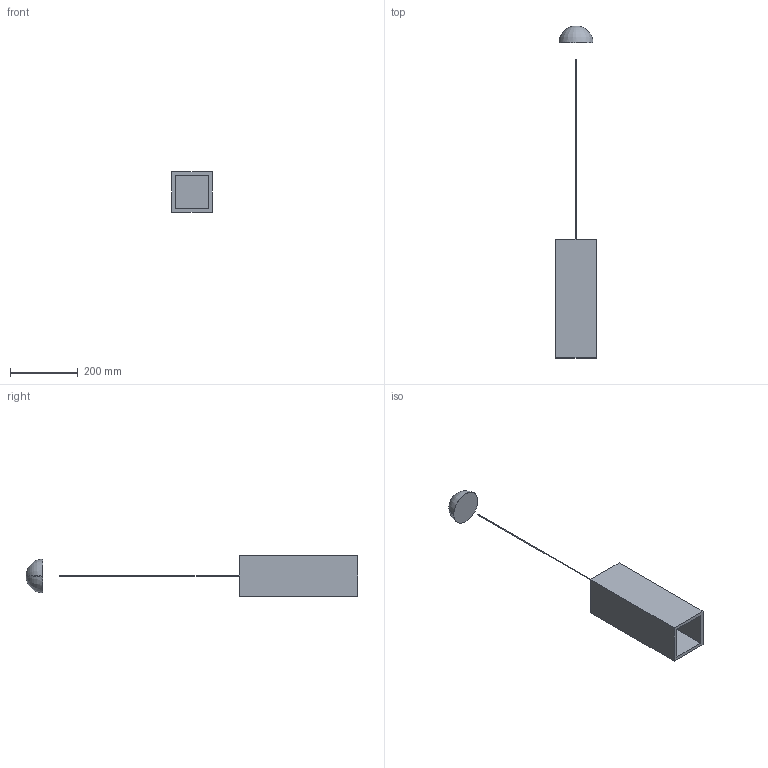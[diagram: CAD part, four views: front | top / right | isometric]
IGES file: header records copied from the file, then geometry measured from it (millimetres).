
Start section: SolidWorks IGES file using analytic representation for surfaces
Global section: file name: C:\Users\Stagiaire\Desktop\Rendu 3D\MINI_TUBE\3190_MINI_TUBE.IGS; native system: SolidWorks 2014; preprocessor: SolidWorks 2014; author: Stagiaire; date: 141006.141028; units: millimetre
Bounding box: 120 x 979 x 120 mm (x, y, z)
Surface area: 359814.6 mm2 (no closed solid volume)
Topology: 0 solids, 0 shells, 22 faces, 188 edges, 188 vertices
Faces by surface type: bspline 18, revolution 4
